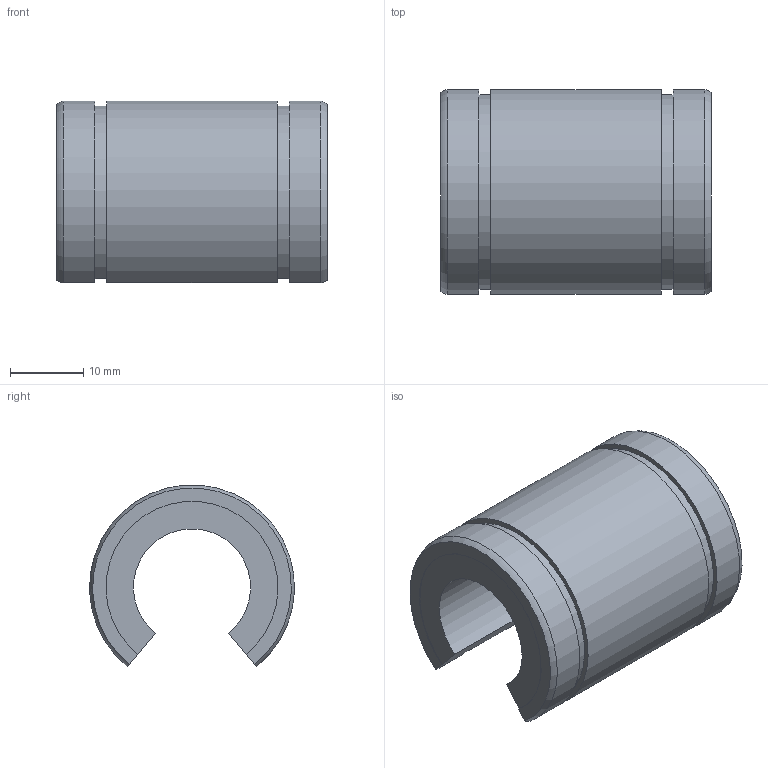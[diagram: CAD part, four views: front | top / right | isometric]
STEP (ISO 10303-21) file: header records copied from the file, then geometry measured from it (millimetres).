
FILE_DESCRIPTION((''),'2;1');
FILE_NAME('D:\製品 (図面)\カタログ用3D\リニアベアリング関連\STEP形式\L-OP\L16-OP.stp','2010-06-04T09:32:57',('Tsuchiya'),(''),'Autodesk Inventor 10','Autodesk Inventor 10','');
FILE_SCHEMA(('AUTOMOTIVE_DESIGN { 1 0 10303 214 1 1 1 1 }'));
Length unit declared in the file: millimetre
Products named in the file (1): L16-OP
Bounding box: 37 x 27.98 x 24.79 mm (x, y, z)
Volume: 11805.8 mm3; surface area: 5226.3 mm2
Topology: 1 solids, 1 shells, 20 faces, 54 edges, 36 vertices
Faces by surface type: plane 10, cylinder 8, torus 2
Entity records: 681 total; most frequent: CARTESIAN_POINT 141, DIRECTION 110, ORIENTED_EDGE 108, EDGE_CURVE 54, AXIS2_PLACEMENT_3D 39, VERTEX_POINT 36, VECTOR 32, LINE 32
